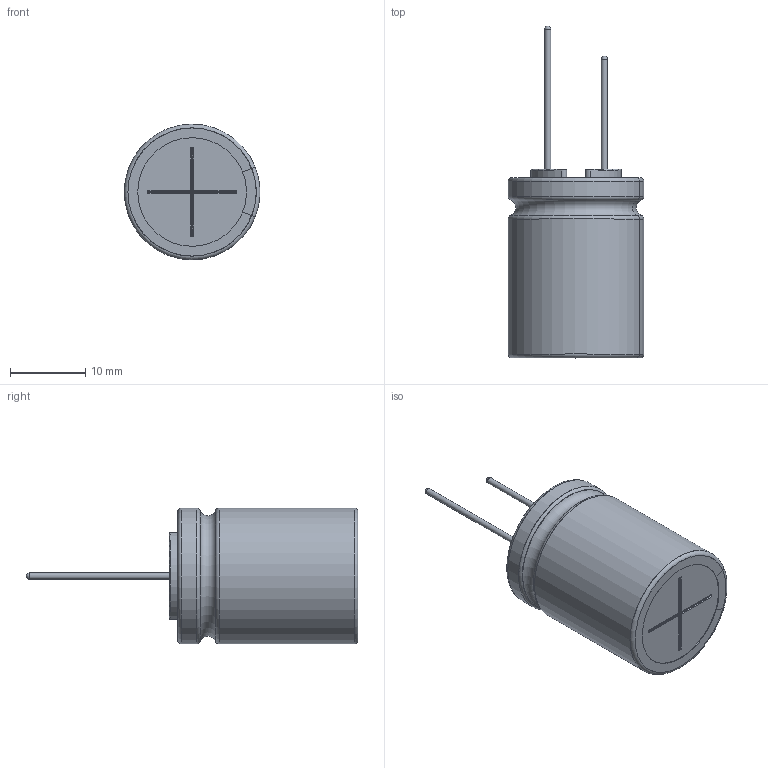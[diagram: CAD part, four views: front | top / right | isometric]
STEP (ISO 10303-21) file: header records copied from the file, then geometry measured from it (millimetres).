
FILE_DESCRIPTION(/* description */ (''),/* implementation_level */ '2;1');
FILE_NAME(/* name */ '18x25_Lead.stp',/* time_stamp */ '2017-09-05T14:54:54+09:00',/* author */ (''),/* organization */ (''),/* preprocessor_version */ 'ST-DEVELOPER v16',/* originating_system */ 'SIEMENS PLM Software NX 11.0',/* authorisation */ '');
FILE_SCHEMA (('AUTOMOTIVE_DESIGN { 1 0 10303 214 3 1 1 1 }'));
Length unit declared in the file: millimetre
Products named in the file (1): 18x25_Lead_0
Bounding box: 17.97 x 44 x 18 mm (x, y, z)
Volume: 6039.9 mm3; surface area: 5076.8 mm2
Topology: 3 solids, 3 shells, 132 faces, 328 edges, 205 vertices
Faces by surface type: cylinder 50, torus 35, plane 33, sphere 6, bspline 6, extrusion 2
Full cylindrical faces by diameter (mm): 0.8 x2, 17.8 x2
Entity records: 4908 total; most frequent: CARTESIAN_POINT 1353, DIRECTION 748, ORIENTED_EDGE 624, EDGE_CURVE 312, AXIS2_PLACEMENT_3D 311, VERTEX_POINT 200, CIRCLE 174, EDGE_LOOP 146
